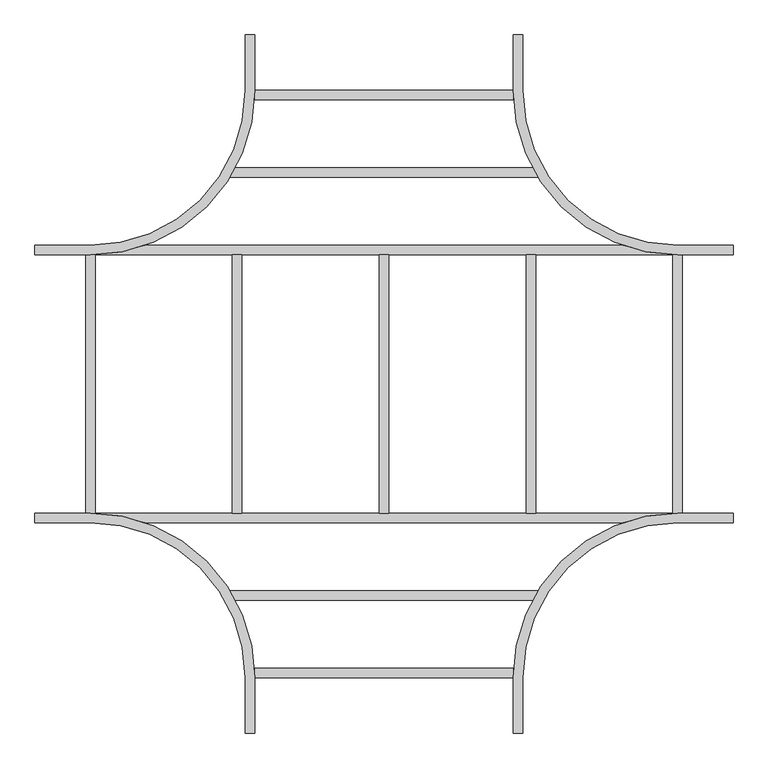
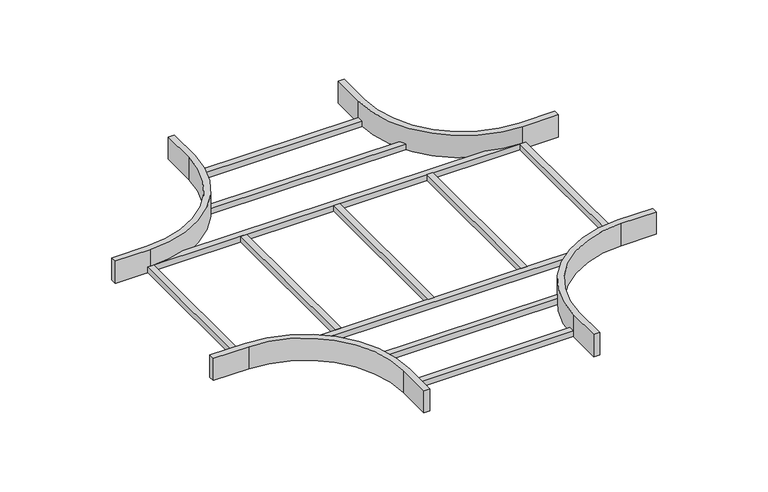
"""IFC4 building model written with IfcOpenShell, lengths in millimetres: cable carrier fitting geometry, BAKS_LD_CROSS_Horizontal cross over_CZDV : CZDVC_H100."""

from ifc_helpers import new_model, si_unit, frame, origin, place, context, project, spatial, polyline, circle_curve, outline, extrude, source, transform, mapped, element, save
from ifc_brep_helpers import plane_surface, cylinder_surface, revolved_surface, advanced_brep


def cable_carrier_fitting_92e6b0da(model_context):
    return source(origin(), model_context, "Body", "SolidModel", [
        extrude(outline(polyline([(416.8889052, -559.6), (416.8889052, -585.0), (-416.8889052, -585.0), (-416.8889052, -559.6), (416.8889052, -559.6)])), frame((0.0, 0.0, -50.0), z_axis=(0.0, 0.0, 1.0), x_axis=(1.0, 0.0, 0.0)), (0.0, 0.0, 1.0), 25.4),
        extrude(outline(polyline([(416.8889052, 585.0), (416.8889052, 559.6), (-416.8889052, 559.6), (-416.8889052, 585.0), (416.8889052, 585.0)])), frame((0.0, 0.0, -50.0), z_axis=(0.0, 0.0, 1.0), x_axis=(1.0, 0.0, 0.0)), (0.0, 0.0, 1.0), 25.4),
        extrude(outline(polyline([(349.6, -769.6), (349.6, -795.0), (-349.6, -795.0), (-349.6, -769.6), (349.6, -769.6)])), frame((0.0, 0.0, -50.0), z_axis=(0.0, 0.0, 1.0), x_axis=(1.0, 0.0, 0.0)), (0.0, 0.0, 1.0), 25.4),
        extrude(outline(polyline([(349.6, 795.0), (349.6, 769.6), (-349.6, 769.6), (-349.6, 795.0), (349.6, 795.0)])), frame((0.0, 0.0, -50.0), z_axis=(0.0, 0.0, 1.0), x_axis=(1.0, 0.0, 0.0)), (0.0, 0.0, 1.0), 25.4),
        extrude(outline(polyline([(807.7, 349.6), (807.7, -349.6), (782.3, -349.6), (782.3, 349.6), (807.7, 349.6)])), frame((0.0, 0.0, -50.0), z_axis=(0.0, 0.0, 1.0), x_axis=(1.0, 0.0, 0.0)), (0.0, 0.0, 1.0), 25.4),
        extrude(outline(polyline([(410.2, 349.6), (410.2, -349.6), (384.8, -349.6), (384.8, 349.6), (410.2, 349.6)])), frame((0.0, 0.0, -50.0), z_axis=(0.0, 0.0, 1.0), x_axis=(1.0, 0.0, 0.0)), (0.0, 0.0, 1.0), 25.4),
        extrude(outline(polyline([(12.7, 349.6), (12.7, -349.6), (-12.7, -349.6), (-12.7, 349.6), (12.7, 349.6)])), frame((0.0, 0.0, -50.0), z_axis=(0.0, 0.0, 1.0), x_axis=(1.0, 0.0, 0.0)), (0.0, 0.0, 1.0), 25.4),
        extrude(outline(polyline([(-384.8, 349.6), (-384.8, -349.6), (-410.2, -349.6), (-410.2, 349.6), (-384.8, 349.6)])), frame((0.0, 0.0, -50.0), z_axis=(0.0, 0.0, 1.0), x_axis=(1.0, 0.0, 0.0)), (0.0, 0.0, 1.0), 25.4),
        extrude(outline(polyline([(-782.3, 349.6), (-782.3, -349.6), (-807.7, -349.6), (-807.7, 349.6), (-782.3, 349.6)])), frame((0.0, 0.0, -50.0), z_axis=(0.0, 0.0, 1.0), x_axis=(1.0, 0.0, 0.0)), (0.0, 0.0, 1.0), 25.4),
        advanced_brep(
        [(-375.0, -795.0, 50.0), (-375.0, -945.0, 50.0), (-349.6, -945.0, 50.0), (-349.6, -795.0, 50.0), (-795.0, -349.6, 50.0), (-945.0, -349.6, 50.0), (-945.0, -375.0, 50.0), (-795.0, -375.0, 50.0), (375.0, -795.0, 50.0), (795.0, -375.0, 50.0), (945.0, -375.0, 50.0), (945.0, -349.6, 50.0), (795.0, -349.6, 50.0), (349.6, -795.0, 50.0), (349.6, -945.0, 50.0), (375.0, -945.0, 50.0), (-375.0, -795.0, -50.0), (-795.0, -375.0, -50.0), (-945.0, -375.0, -50.0), (-945.0, -349.6, -50.0), (945.0, -349.6, -50.0), (945.0, -375.0, -50.0), (795.0, -375.0, -50.0), (375.0, -795.0, -50.0), (375.0, -945.0, -50.0), (349.6, -945.0, -50.0), (349.6, -795.0, -50.0), (646.7395535, -375.0, -50.0), (-646.7395535, -375.0, -50.0), (-349.6, -795.0, -50.0), (-349.6, -945.0, -50.0), (-375.0, -945.0, -50.0), (-646.7395535, -375.0, -24.6), (-795.0, -349.6, -24.6), (795.0, -349.6, -24.6), (-795.0, -375.0, -24.6), (795.0, -375.0, -24.6), (646.7395535, -375.0, -24.6)],
        [
            (0, 1),
            (1, 2),
            (2, 3),
            (3, 4, circle_curve(frame((-795.0, -795.0, 50.0), z_axis=(0.0, 0.0, 1.0), x_axis=(1.0, 0.0, 0.0)), 445.4)),
            (4, 5),
            (5, 6),
            (6, 7),
            (7, 0, circle_curve(frame((-795.0, -795.0, 50.0), z_axis=(0.0, 0.0, -1.0), x_axis=(1.0, 0.0, 0.0)), 420.0)),
            (8, 9, circle_curve(frame((795.0, -795.0, 50.0), z_axis=(0.0, 0.0, -1.0), x_axis=(1.0, 0.0, 0.0)), 420.0)),
            (9, 10),
            (10, 11),
            (11, 12),
            (12, 13, circle_curve(frame((795.0, -795.0, 50.0), z_axis=(0.0, 0.0, 1.0), x_axis=(1.0, 0.0, 0.0)), 445.4)),
            (13, 14),
            (14, 15),
            (15, 8),
            (16, 17, circle_curve(frame((-795.0, -795.0, -50.0), z_axis=(0.0, 0.0, 1.0), x_axis=(1.0, 0.0, 0.0)), 420.0)),
            (17, 18),
            (18, 19),
            (19, 20),
            (20, 21),
            (21, 22),
            (22, 23, circle_curve(frame((795.0, -795.0, -50.0), z_axis=(0.0, 0.0, 1.0), x_axis=(1.0, 0.0, 0.0)), 420.0)),
            (23, 24),
            (24, 25),
            (25, 26),
            (26, 27, circle_curve(frame((795.0, -795.0, -50.0), z_axis=(0.0, 0.0, -1.0), x_axis=(1.0, 0.0, 0.0)), 445.4)),
            (27, 28),
            (28, 29, circle_curve(frame((-795.0, -795.0, -50.0), z_axis=(0.0, 0.0, -1.0), x_axis=(1.0, 0.0, 0.0)), 445.4)),
            (29, 30),
            (30, 31),
            (31, 16),
            (0, 16),
            (31, 1),
            (30, 2),
            (29, 3),
            (28, 32),
            (32, 33, circle_curve(frame((-795.0, -795.0, -24.6), z_axis=(0.0, 0.0, 1.0), x_axis=(1.0, 0.0, 0.0)), 445.4)),
            (33, 4),
            (33, 34),
            (34, 12),
            (11, 20),
            (19, 5),
            (18, 6),
            (17, 35),
            (35, 7),
            (8, 23),
            (22, 36),
            (36, 9),
            (21, 10),
            (34, 37, circle_curve(frame((795.0, -795.0, -24.6), z_axis=(0.0, 0.0, 1.0), x_axis=(1.0, 0.0, 0.0)), 445.4)),
            (37, 27),
            (26, 13),
            (25, 14),
            (24, 15),
            (32, 37),
        ],
        [
            plane_surface(frame((-375.0, -795.0, 50.0), z_axis=(0.0, 0.0, 1.0), x_axis=(0.0, -1.0, 0.0))),
            plane_surface(frame((-375.0, -795.0, -50.0), z_axis=(0.0, 0.0, -1.0), x_axis=(0.0, 1.0, 0.0))),
            plane_surface(frame((-375.0, -795.0, 50.0), z_axis=(-1.0, 0.0, 0.0), x_axis=(0.0, 0.0, -1.0))),
            plane_surface(frame((-375.0, -945.0, 50.0), z_axis=(0.0, -1.0, 0.0), x_axis=(0.0, 0.0, -1.0))),
            plane_surface(frame((-349.6, -945.0, 50.0), z_axis=(1.0, 0.0, 0.0), x_axis=(0.0, 0.0, -1.0))),
            cylinder_surface(frame((-795.0, -795.0, -50.0), z_axis=(0.0, 0.0, 1.0), x_axis=(1.0, 0.0, 0.0)), 445.4),
            plane_surface(frame((-795.0, -349.6, 50.0), z_axis=(0.0, 1.0, 0.0), x_axis=(0.0, 0.0, -1.0))),
            plane_surface(frame((-945.0, -349.6, 50.0), z_axis=(-1.0, 0.0, 0.0), x_axis=(0.0, 0.0, -1.0))),
            plane_surface(frame((-945.0, -375.0, 50.0), z_axis=(0.0, -1.0, 0.0), x_axis=(0.0, 0.0, -1.0))),
            revolved_surface(polyline([(-375.0, -795.0, -50.0), (-375.0, -795.0, 50.0)]), (-795.0, -795.0, -50.0), (0.0, 0.0, -1.0)),
            revolved_surface(polyline([(1215.0, -795.0, -50.0), (1215.0, -795.0, 50.0)]), (795.0, -795.0, 0.0), (0.0, 0.0, -1.0)),
            plane_surface(frame((795.0, -375.0, 50.0), z_axis=(0.0, -1.0, 0.0), x_axis=(0.0, 0.0, -1.0))),
            plane_surface(frame((945.0, -375.0, 50.0), z_axis=(1.0, 0.0, 0.0), x_axis=(0.0, 0.0, -1.0))),
            cylinder_surface(frame((795.0, -795.0, 0.0), z_axis=(0.0, 0.0, 1.0), x_axis=(1.0, 0.0, 0.0)), 445.4),
            plane_surface(frame((349.6, -795.0, 50.0), z_axis=(-1.0, 0.0, 0.0), x_axis=(0.0, 0.0, -1.0))),
            plane_surface(frame((349.6, -945.0, 50.0), z_axis=(0.0, -1.0, 0.0), x_axis=(0.0, 0.0, -1.0))),
            plane_surface(frame((375.0, -945.0, 50.0), z_axis=(1.0, 0.0, 0.0), x_axis=(0.0, 0.0, -1.0))),
            plane_surface(frame((-795.0, -349.6, -24.6), z_axis=(0.0, 0.0, 1.0), x_axis=(-1.0, 0.0, 0.0))),
            plane_surface(frame((-795.0, -375.0, -24.6), z_axis=(0.0, -1.0, 0.0), x_axis=(0.0, 0.0, -1.0))),
        ],
        [
            (0, [[1, 2, 3, 4, 5, 6, 7, 8]]),
            (0, [[9, 10, 11, 12, 13, 14, 15, 16]]),
            (1, [[17, 18, 19, 20, 21, 22, 23, 24, 25, 26, 27, 28, 29, 30, 31, 32]]),
            (2, [[-1, 33, -32, 34]]),
            (3, [[-2, -34, -31, 35]]),
            (4, [[-3, -35, -30, 36]]),
            (5, [[-4, -36, -29, 37, 38, 39]]),
            (6, [[-5, -39, 40, 41, -12, 42, -20, 43]]),
            (7, [[-6, -43, -19, 44]]),
            (8, [[-7, -44, -18, 45, 46]]),
            (9, [[-8, -46, -45, -17, -33]]),
            (10, [[-9, 47, -23, 48, 49]]),
            (11, [[-10, -49, -48, -22, 50]]),
            (12, [[-11, -50, -21, -42]]),
            (13, [[-13, -41, 51, 52, -27, 53]]),
            (14, [[-14, -53, -26, 54]]),
            (15, [[-15, -54, -25, 55]]),
            (16, [[-16, -55, -24, -47]]),
            (17, [[-40, -38, 56, -51]]),
            (18, [[-28, -52, -56, -37]]),
        ],
    ),
        advanced_brep(
        [(-349.6, 795.0, 50.0), (-349.6, 945.0, 50.0), (-375.0, 945.0, 50.0), (-375.0, 795.0, 50.0), (-795.0, 375.0, 50.0), (-945.0, 375.0, 50.0), (-945.0, 349.6, 50.0), (-795.0, 349.6, 50.0), (349.6, 795.0, 50.0), (795.0, 349.6, 50.0), (945.0, 349.6, 50.0), (945.0, 375.0, 50.0), (795.0, 375.0, 50.0), (375.0, 795.0, 50.0), (375.0, 945.0, 50.0), (349.6, 945.0, 50.0), (-945.0, 349.6, -50.0), (-945.0, 375.0, -50.0), (-795.0, 375.0, -50.0), (-375.0, 795.0, -50.0), (-375.0, 945.0, -50.0), (-349.6, 945.0, -50.0), (-349.6, 795.0, -50.0), (-646.7395535, 375.0, -50.0), (646.7395535, 375.0, -50.0), (349.6, 795.0, -50.0), (349.6, 945.0, -50.0), (375.0, 945.0, -50.0), (375.0, 795.0, -50.0), (795.0, 375.0, -50.0), (945.0, 375.0, -50.0), (945.0, 349.6, -50.0), (-795.0, 349.6, -24.6), (795.0, 349.6, -24.6), (646.7395535, 375.0, -24.6), (-646.7395535, 375.0, -24.6), (-795.0, 375.0, -24.6), (795.0, 375.0, -24.6)],
        [
            (0, 1),
            (1, 2),
            (2, 3),
            (3, 4, circle_curve(frame((-795.0, 795.0, 50.0), z_axis=(0.0, 0.0, -1.0), x_axis=(1.0, 0.0, 0.0)), 420.0)),
            (4, 5),
            (5, 6),
            (6, 7),
            (7, 0, circle_curve(frame((-795.0, 795.0, 50.0), z_axis=(0.0, 0.0, 1.0), x_axis=(1.0, 0.0, 0.0)), 445.4)),
            (8, 9, circle_curve(frame((795.0, 795.0, 50.0), z_axis=(0.0, 0.0, 1.0), x_axis=(1.0, 0.0, 0.0)), 445.4)),
            (9, 10),
            (10, 11),
            (11, 12),
            (12, 13, circle_curve(frame((795.0, 795.0, 50.0), z_axis=(0.0, 0.0, -1.0), x_axis=(1.0, 0.0, 0.0)), 420.0)),
            (13, 14),
            (14, 15),
            (15, 8),
            (16, 17),
            (17, 18),
            (18, 19, circle_curve(frame((-795.0, 795.0, -50.0), z_axis=(0.0, 0.0, 1.0), x_axis=(1.0, 0.0, 0.0)), 420.0)),
            (19, 20),
            (20, 21),
            (21, 22),
            (22, 23, circle_curve(frame((-795.0, 795.0, -50.0), z_axis=(0.0, 0.0, -1.0), x_axis=(1.0, 0.0, 0.0)), 445.4)),
            (23, 24),
            (24, 25, circle_curve(frame((795.0, 795.0, -50.0), z_axis=(0.0, 0.0, -1.0), x_axis=(1.0, 0.0, 0.0)), 445.4)),
            (25, 26),
            (26, 27),
            (27, 28),
            (28, 29, circle_curve(frame((795.0, 795.0, -50.0), z_axis=(0.0, 0.0, 1.0), x_axis=(1.0, 0.0, 0.0)), 420.0)),
            (29, 30),
            (30, 31),
            (31, 16),
            (32, 33),
            (33, 34, circle_curve(frame((795.0, 795.0, -24.6), z_axis=(0.0, 0.0, -1.0), x_axis=(1.0, 0.0, 0.0)), 445.4)),
            (34, 35),
            (35, 32, circle_curve(frame((-795.0, 795.0, -24.6), z_axis=(0.0, 0.0, -1.0), x_axis=(1.0, 0.0, 0.0)), 445.4)),
            (0, 22),
            (21, 1),
            (20, 2),
            (19, 3),
            (18, 36),
            (36, 4),
            (17, 5),
            (16, 6),
            (31, 10),
            (9, 33),
            (32, 7),
            (35, 23),
            (8, 25),
            (24, 34),
            (30, 11),
            (29, 37),
            (37, 12),
            (28, 13),
            (27, 14),
            (26, 15),
        ],
        [
            plane_surface(frame((-375.0, -795.0, 50.0), z_axis=(0.0, 0.0, 1.0), x_axis=(0.0, -1.0, 0.0))),
            plane_surface(frame((-375.0, -795.0, -50.0), z_axis=(0.0, 0.0, -1.0), x_axis=(0.0, 1.0, 0.0))),
            plane_surface(frame((-795.0, -349.6, -24.6), z_axis=(0.0, 0.0, 1.0), x_axis=(-1.0, 0.0, 0.0))),
            plane_surface(frame((-349.6, 795.0, 50.0), z_axis=(1.0, 0.0, 0.0), x_axis=(0.0, 0.0, -1.0))),
            plane_surface(frame((-349.6, 945.0, 50.0), z_axis=(0.0, 1.0, 0.0), x_axis=(0.0, 0.0, -1.0))),
            plane_surface(frame((-375.0, 945.0, 50.0), z_axis=(-1.0, 0.0, 0.0), x_axis=(0.0, 0.0, -1.0))),
            revolved_surface(polyline([(-375.0, 795.0, -50.0), (-375.0, 795.0, 50.0)]), (-795.0, 795.0, 0.0), (0.0, 0.0, -1.0)),
            plane_surface(frame((-795.0, 375.0, 50.0), z_axis=(0.0, 1.0, 0.0), x_axis=(0.0, 0.0, -1.0))),
            plane_surface(frame((-945.0, 375.0, 50.0), z_axis=(-1.0, 0.0, 0.0), x_axis=(0.0, 0.0, -1.0))),
            plane_surface(frame((-945.0, 349.6, 50.0), z_axis=(0.0, -1.0, 0.0), x_axis=(0.0, 0.0, -1.0))),
            cylinder_surface(frame((-795.0, 795.0, 0.0), z_axis=(0.0, 0.0, 1.0), x_axis=(1.0, 0.0, 0.0)), 445.4),
            cylinder_surface(frame((795.0, 795.0, 0.0), z_axis=(0.0, 0.0, 1.0), x_axis=(1.0, 0.0, 0.0)), 445.4),
            plane_surface(frame((945.0, 349.6, 50.0), z_axis=(1.0, 0.0, 0.0), x_axis=(0.0, 0.0, -1.0))),
            plane_surface(frame((945.0, 375.0, 50.0), z_axis=(0.0, 1.0, 0.0), x_axis=(0.0, 0.0, -1.0))),
            revolved_surface(polyline([(1215.0, 795.0, -50.0), (1215.0, 795.0, 50.0)]), (795.0, 795.0, 0.0), (0.0, 0.0, -1.0)),
            plane_surface(frame((375.0, 795.0, 50.0), z_axis=(1.0, 0.0, 0.0), x_axis=(0.0, 0.0, -1.0))),
            plane_surface(frame((375.0, 945.0, 50.0), z_axis=(0.0, 1.0, 0.0), x_axis=(0.0, 0.0, -1.0))),
            plane_surface(frame((349.6, 945.0, 50.0), z_axis=(-1.0, 0.0, 0.0), x_axis=(0.0, 0.0, -1.0))),
            plane_surface(frame((795.0, 375.0, -24.6), z_axis=(0.0, 1.0, 0.0), x_axis=(0.0, 0.0, -1.0))),
        ],
        [
            (0, [[1, 2, 3, 4, 5, 6, 7, 8]]),
            (0, [[9, 10, 11, 12, 13, 14, 15, 16]]),
            (1, [[17, 18, 19, 20, 21, 22, 23, 24, 25, 26, 27, 28, 29, 30, 31, 32]]),
            (2, [[33, 34, 35, 36]]),
            (3, [[-1, 37, -22, 38]]),
            (4, [[-2, -38, -21, 39]]),
            (5, [[-3, -39, -20, 40]]),
            (6, [[-4, -40, -19, 41, 42]]),
            (7, [[-5, -42, -41, -18, 43]]),
            (8, [[-6, -43, -17, 44]]),
            (9, [[-7, -44, -32, 45, -10, 46, -33, 47]]),
            (10, [[-8, -47, -36, 48, -23, -37]]),
            (11, [[-9, 49, -25, 50, -34, -46]]),
            (12, [[-11, -45, -31, 51]]),
            (13, [[-12, -51, -30, 52, 53]]),
            (14, [[-13, -53, -52, -29, 54]]),
            (15, [[-14, -54, -28, 55]]),
            (16, [[-15, -55, -27, 56]]),
            (17, [[-16, -56, -26, -49]]),
            (18, [[-24, -48, -35, -50]]),
        ],
    ),
    ])


if __name__ == "__main__":
    model = new_model("IFC4")
    model_context = context("Model", 3, world=origin())
    ifc_project = project(units=[si_unit("LENGTHUNIT", "METRE", prefix="MILLI")], contexts=[model_context])
    site = spatial("IfcSite", under=ifc_project)
    building = spatial("IfcBuilding", under=site)
    placement = place(None, origin())
    cable_carrier_fitting_shape = cable_carrier_fitting_92e6b0da(model_context)
    element("IfcCableCarrierFitting", 1, ObjectType="BAKS_LD_CROSS_Horizontal cross over_CZDV : CZDVC_H100", at=placement, inside=building, context=model_context, shape_type="MappedRepresentation", body=[
        mapped(cable_carrier_fitting_shape, transform((0.0, 0.0, 0.0), x_axis=(1.0, 0.0, 0.0), y_axis=(0.0, 1.0, 0.0), z_axis=(0.0, 0.0, 1.0))),
    ])
    save(model, "model.ifc")
